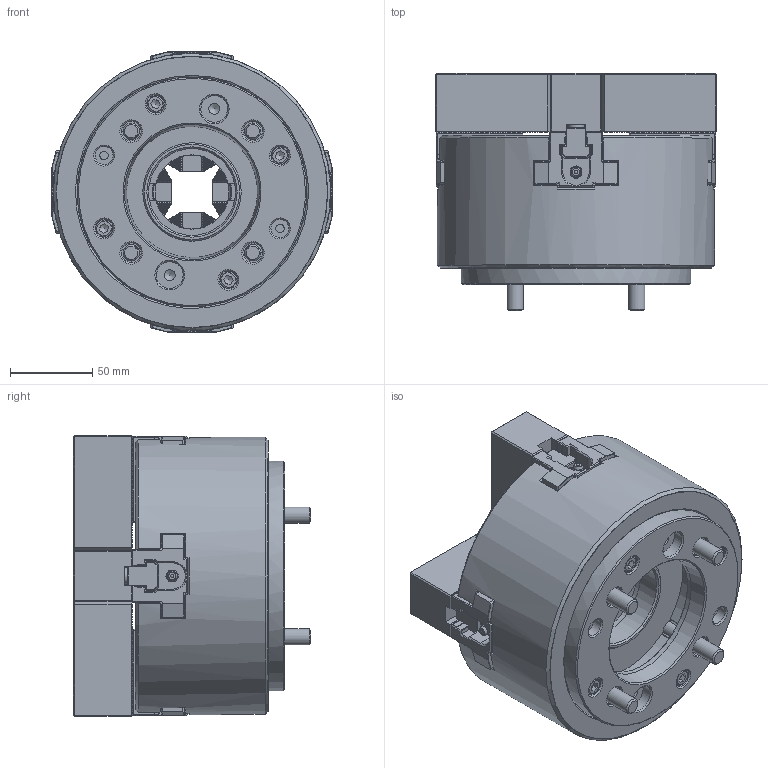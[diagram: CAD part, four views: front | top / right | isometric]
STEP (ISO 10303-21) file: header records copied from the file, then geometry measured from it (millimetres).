
FILE_DESCRIPTION(/* description */ (''),/* implementation_level */ '2;1');
FILE_NAME(/* name */ '\\Itserver\個人資料夾\柯玫如\8.網頁3D討論\1.中空油壓系列\1-1中空油壓夾頭\3.OPF系列\OPF-206\OPF-206-A5.stp',/* time_stamp */ '2024-08-23T15:47:29+08:00',/* author */ ('034'),/* organization */ (''),/* preprocessor_version */ 'ST-DEVELOPER v16.13',/* originating_system */ 'Autodesk Inventor 2018',/* authorisation */ '');
FILE_SCHEMA (('AUTOMOTIVE_DESIGN { 1 0 10303 214 3 1 1 }'));
Products named in the file (1): OPF-206-A5
Bounding box: 171.11 x 144.49 x 171.11 mm (x, y, z)
Volume: 1917677.5 mm3; surface area: 257948.7 mm2
Topology: 1 solids, 22 shells, 6248 faces, 19976 edges, 12830 vertices
Faces by surface type: plane 4098, cylinder 1508, bspline 326, cone 223, torus 73, sphere 20
Full cylindrical faces by diameter (mm): 3 x16, 3.8 x8, 4.3 x4, 5 x4, 5.1 x2, 5.2 x4, 5.5 x4, 6 x8, 6.6 x4, 8.6 x12, 9.5 x4, 10 x24, 11 x14, 12 x8, 16 x12, 16.3 x2, 17 x12, 45 x1, 48 x1, 48.2 x1, 53 x1, 55.5 x1, 60 x1, 79.8 x1, 140 x2, 141 x1, 169 x1
Entity records: 220631 total; most frequent: CARTESIAN_POINT 45503, ORIENTED_EDGE 38874, DIRECTION 34395, EDGE_CURVE 19437, LINE 14277, VECTOR 14277, VERTEX_POINT 12646, AXIS2_PLACEMENT_3D 10059
